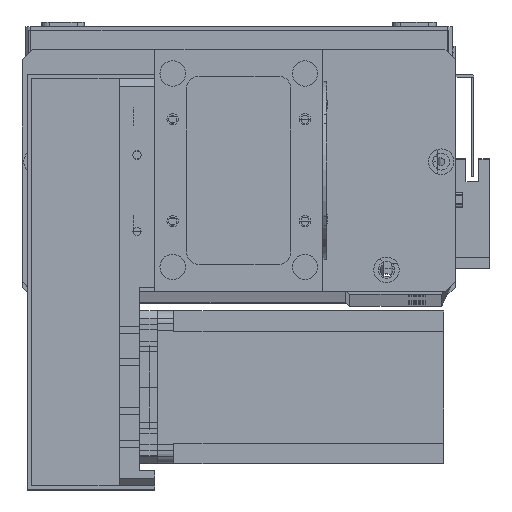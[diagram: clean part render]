
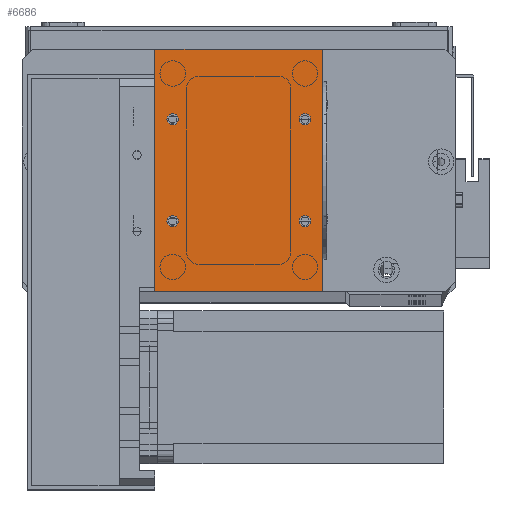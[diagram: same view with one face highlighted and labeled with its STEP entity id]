
A CAD part, top view. The second image highlights one B-rep face of the part: STEP entity #6686.
In plain terms, the highlighted planar face has unit normal (0, 0, 1).
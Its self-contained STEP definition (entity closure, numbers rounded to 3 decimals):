
#244 = ORIENTED_EDGE ( 'NONE', *, *, #9770, .F. ) ;
#473 = DIRECTION ( 'NONE',  ( -1., 0., 0. ) ) ;
#561 = CARTESIAN_POINT ( 'NONE',  ( 0., 0., 2. ) ) ;
#678 = ORIENTED_EDGE ( 'NONE', *, *, #21033, .F. ) ;
#723 = PLANE ( 'NONE',  #27086 ) ;
#859 = DIRECTION ( 'NONE',  ( 1., 0., 0. ) ) ;
#904 = CIRCLE ( 'NONE', #18960, 2.25 ) ;
#936 = DIRECTION ( 'NONE',  ( 0., 0., 1. ) ) ;
#989 = CARTESIAN_POINT ( 'NONE',  ( 7., 67.5, 2. ) ) ;
#1344 = VERTEX_POINT ( 'NONE', #30510 ) ;
#1506 = EDGE_CURVE ( 'NONE', #32887, #14543, #33182, .T. ) ;
#1573 = CARTESIAN_POINT ( 'NONE',  ( 59., 27.5, 2. ) ) ;
#1778 = CIRCLE ( 'NONE', #26344, 2.25 ) ;
#1796 = CARTESIAN_POINT ( 'NONE',  ( 7., 27.5, 2. ) ) ;
#2094 = DIRECTION ( 'NONE',  ( 1., 0., 0. ) ) ;
#2112 = DIRECTION ( 'NONE',  ( 0., 0., -1. ) ) ;
#2893 = CARTESIAN_POINT ( 'NONE',  ( 61.25, 67.5, 2. ) ) ;
#3088 = EDGE_CURVE ( 'NONE', #15891, #31274, #26868, .T. ) ;
#3214 = AXIS2_PLACEMENT_3D ( 'NONE', #15561, #15465, #15341 ) ;
#3474 = EDGE_CURVE ( 'NONE', #32852, #15580, #1778, .T. ) ;
#3492 = VERTEX_POINT ( 'NONE', #24978 ) ;
#3567 = ORIENTED_EDGE ( 'NONE', *, *, #3474, .F. ) ;
#3709 = DIRECTION ( 'NONE',  ( 0., 0., 1. ) ) ;
#3885 = CARTESIAN_POINT ( 'NONE',  ( 59., 27.5, 2. ) ) ;
#4160 = EDGE_LOOP ( 'NONE', ( #22202, #8468 ) ) ;
#4236 = VECTOR ( 'NONE', #31728, 1000. ) ;
#4272 = EDGE_CURVE ( 'NONE', #15580, #32852, #9469, .T. ) ;
#4622 = DIRECTION ( 'NONE',  ( 1., 0., 0. ) ) ;
#4968 = EDGE_LOOP ( 'NONE', ( #27677, #33605, #15845, #26520 ) ) ;
#5568 = CARTESIAN_POINT ( 'NONE',  ( 66., 95., 2. ) ) ;
#5643 = FACE_BOUND ( 'NONE', #10824, .T. ) ;
#6295 = VERTEX_POINT ( 'NONE', #18562 ) ;
#6686 = ADVANCED_FACE ( 'NONE', ( #27605, #5643, #12827, #32682, #19084 ), #723, .F. ) ;
#6947 = CARTESIAN_POINT ( 'NONE',  ( 0., 0., 2. ) ) ;
#7560 = EDGE_CURVE ( 'NONE', #8776, #6295, #29110, .T. ) ;
#7667 = DIRECTION ( 'NONE',  ( 0., 0., 1. ) ) ;
#7843 = CARTESIAN_POINT ( 'NONE',  ( 56.75, 27.5, 2. ) ) ;
#8468 = ORIENTED_EDGE ( 'NONE', *, *, #28982, .F. ) ;
#8497 = EDGE_CURVE ( 'NONE', #3492, #31236, #10597, .T. ) ;
#8776 = VERTEX_POINT ( 'NONE', #5568 ) ;
#9469 = CIRCLE ( 'NONE', #14967, 2.25 ) ;
#9564 = DIRECTION ( 'NONE',  ( 0., -1., 0. ) ) ;
#9770 = EDGE_CURVE ( 'NONE', #31236, #3492, #13891, .T. ) ;
#10446 = EDGE_LOOP ( 'NONE', ( #21794, #678 ) ) ;
#10597 = CIRCLE ( 'NONE', #13868, 2.25 ) ;
#10600 = DIRECTION ( 'NONE',  ( 1., 0., 0. ) ) ;
#10824 = EDGE_LOOP ( 'NONE', ( #244, #12259 ) ) ;
#10882 = CARTESIAN_POINT ( 'NONE',  ( 66., 0., 2. ) ) ;
#11427 = LINE ( 'NONE', #10882, #4236 ) ;
#12259 = ORIENTED_EDGE ( 'NONE', *, *, #8497, .F. ) ;
#12827 = FACE_BOUND ( 'NONE', #22417, .T. ) ;
#13868 = AXIS2_PLACEMENT_3D ( 'NONE', #26513, #7667, #2094 ) ;
#13891 = CIRCLE ( 'NONE', #3214, 2.25 ) ;
#14543 = VERTEX_POINT ( 'NONE', #15754 ) ;
#14967 = AXIS2_PLACEMENT_3D ( 'NONE', #3885, #29434, #27570 ) ;
#15286 = VECTOR ( 'NONE', #20445, 1000. ) ;
#15341 = DIRECTION ( 'NONE',  ( 1., 0., 0. ) ) ;
#15389 = VERTEX_POINT ( 'NONE', #24843 ) ;
#15465 = DIRECTION ( 'NONE',  ( 0., 0., 1. ) ) ;
#15561 = CARTESIAN_POINT ( 'NONE',  ( 59., 67.5, 2. ) ) ;
#15580 = VERTEX_POINT ( 'NONE', #33002 ) ;
#15754 = CARTESIAN_POINT ( 'NONE',  ( 4.75, 27.5, 2. ) ) ;
#15845 = ORIENTED_EDGE ( 'NONE', *, *, #31213, .T. ) ;
#15891 = VERTEX_POINT ( 'NONE', #30051 ) ;
#16075 = CIRCLE ( 'NONE', #16917, 2.25 ) ;
#16917 = AXIS2_PLACEMENT_3D ( 'NONE', #1796, #20657, #4622 ) ;
#17402 = VECTOR ( 'NONE', #10600, 1000. ) ;
#18291 = AXIS2_PLACEMENT_3D ( 'NONE', #989, #936, #859 ) ;
#18562 = CARTESIAN_POINT ( 'NONE',  ( 0., 95., 2. ) ) ;
#18960 = AXIS2_PLACEMENT_3D ( 'NONE', #19820, #3709, #22418 ) ;
#19084 = FACE_OUTER_BOUND ( 'NONE', #4968, .T. ) ;
#19286 = CARTESIAN_POINT ( 'NONE',  ( 0., 95., 2. ) ) ;
#19820 = CARTESIAN_POINT ( 'NONE',  ( 7., 67.5, 2. ) ) ;
#20445 = DIRECTION ( 'NONE',  ( -1., 0., 0. ) ) ;
#20657 = DIRECTION ( 'NONE',  ( 0., 0., 1. ) ) ;
#20931 = LINE ( 'NONE', #6947, #33644 ) ;
#21033 = EDGE_CURVE ( 'NONE', #14543, #32887, #16075, .T. ) ;
#21794 = ORIENTED_EDGE ( 'NONE', *, *, #1506, .F. ) ;
#21983 = ORIENTED_EDGE ( 'NONE', *, *, #4272, .F. ) ;
#22202 = ORIENTED_EDGE ( 'NONE', *, *, #3088, .F. ) ;
#22417 = EDGE_LOOP ( 'NONE', ( #21983, #3567 ) ) ;
#22418 = DIRECTION ( 'NONE',  ( 1., 0., 0. ) ) ;
#24378 = CARTESIAN_POINT ( 'NONE',  ( 4.75, 67.5, 2. ) ) ;
#24843 = CARTESIAN_POINT ( 'NONE',  ( 66., 0., 2. ) ) ;
#24978 = CARTESIAN_POINT ( 'NONE',  ( 56.75, 67.5, 2. ) ) ;
#26344 = AXIS2_PLACEMENT_3D ( 'NONE', #1573, #30279, #28318 ) ;
#26392 = CARTESIAN_POINT ( 'NONE',  ( 0., 0., 2. ) ) ;
#26448 = CARTESIAN_POINT ( 'NONE',  ( 9.25, 27.5, 2. ) ) ;
#26513 = CARTESIAN_POINT ( 'NONE',  ( 59., 67.5, 2. ) ) ;
#26520 = ORIENTED_EDGE ( 'NONE', *, *, #7560, .T. ) ;
#26661 = DIRECTION ( 'NONE',  ( 1., 0., 0. ) ) ;
#26728 = DIRECTION ( 'NONE',  ( 0., 0., 1. ) ) ;
#26770 = CARTESIAN_POINT ( 'NONE',  ( 7., 27.5, 2. ) ) ;
#26868 = CIRCLE ( 'NONE', #18291, 2.25 ) ;
#27086 = AXIS2_PLACEMENT_3D ( 'NONE', #561, #2112, #473 ) ;
#27570 = DIRECTION ( 'NONE',  ( 1., 0., 0. ) ) ;
#27605 = FACE_BOUND ( 'NONE', #4160, .T. ) ;
#27677 = ORIENTED_EDGE ( 'NONE', *, *, #33964, .T. ) ;
#28318 = DIRECTION ( 'NONE',  ( 1., 0., 0. ) ) ;
#28982 = EDGE_CURVE ( 'NONE', #31274, #15891, #904, .T. ) ;
#29110 = LINE ( 'NONE', #19286, #15286 ) ;
#29434 = DIRECTION ( 'NONE',  ( 0., 0., 1. ) ) ;
#30051 = CARTESIAN_POINT ( 'NONE',  ( 9.25, 67.5, 2. ) ) ;
#30149 = EDGE_CURVE ( 'NONE', #1344, #15389, #30298, .T. ) ;
#30279 = DIRECTION ( 'NONE',  ( 0., 0., 1. ) ) ;
#30298 = LINE ( 'NONE', #26392, #17402 ) ;
#30510 = CARTESIAN_POINT ( 'NONE',  ( 0., 0., 2. ) ) ;
#31213 = EDGE_CURVE ( 'NONE', #15389, #8776, #11427, .T. ) ;
#31236 = VERTEX_POINT ( 'NONE', #2893 ) ;
#31274 = VERTEX_POINT ( 'NONE', #24378 ) ;
#31728 = DIRECTION ( 'NONE',  ( 0., 1., 0. ) ) ;
#32682 = FACE_BOUND ( 'NONE', #10446, .T. ) ;
#32852 = VERTEX_POINT ( 'NONE', #7843 ) ;
#32887 = VERTEX_POINT ( 'NONE', #26448 ) ;
#33002 = CARTESIAN_POINT ( 'NONE',  ( 61.25, 27.5, 2. ) ) ;
#33182 = CIRCLE ( 'NONE', #34061, 2.25 ) ;
#33605 = ORIENTED_EDGE ( 'NONE', *, *, #30149, .T. ) ;
#33644 = VECTOR ( 'NONE', #9564, 1000. ) ;
#33964 = EDGE_CURVE ( 'NONE', #6295, #1344, #20931, .T. ) ;
#34061 = AXIS2_PLACEMENT_3D ( 'NONE', #26770, #26728, #26661 ) ;
